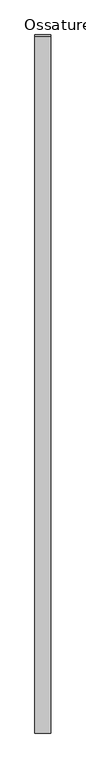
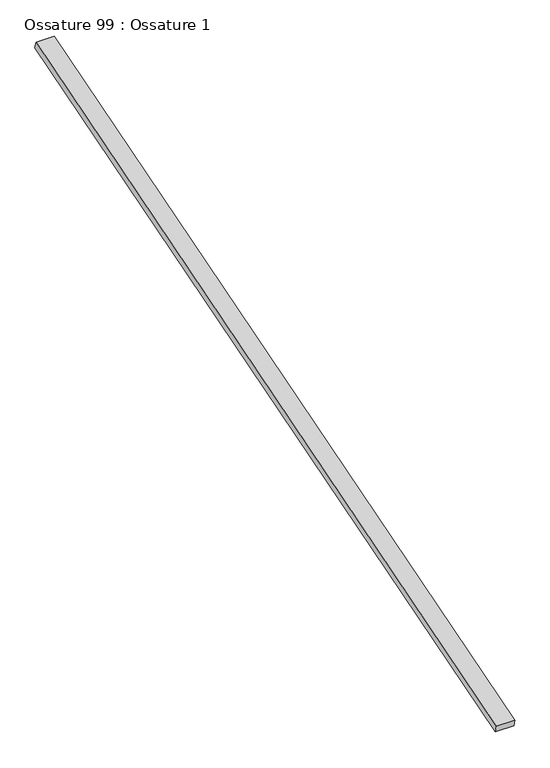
"""IFC4 building model written with IfcOpenShell, lengths in millimetres: beam geometry, Ossature 99 : Ossature 1."""

from ifc_helpers import new_model, si_unit, frame, origin, place, context, project, spatial, polyline, outline, extrude, source, transform, mapped, element, save


def ossature_99_ossature_1_f5a828e9(model_context):
    return source(origin(), model_context, "Body", "SweptSolid", [
        extrude(outline(polyline([(0.0, 0.0), (0.0, -4543.0299679), (-100.0, -4543.0299679), (-100.0, 0.0), (0.0, 0.0)])), frame((23857.8466393, -833.3913565, 8153.6336115), z_axis=(0.0, -0.28734788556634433, 0.9578262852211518), x_axis=(-1.0, 0.0, 0.0)), (0.0, 0.0, 1.0), 40.0),
    ])


if __name__ == "__main__":
    model = new_model("IFC4")
    model_context = context("Model", 3, world=origin())
    ifc_project = project(units=[si_unit("LENGTHUNIT", "METRE", prefix="MILLI")], contexts=[model_context])
    site = spatial("IfcSite", under=ifc_project)
    building = spatial("IfcBuilding", under=site)
    placement = place(None, origin())
    ossature_99_ossature_1_shape = ossature_99_ossature_1_f5a828e9(model_context)
    element("IfcBeam", 1, ObjectType="Ossature 99 : Ossature 1", at=placement, inside=building, context=model_context, shape_type="MappedRepresentation", body=[
        mapped(ossature_99_ossature_1_shape, transform((0.0, 0.0, 0.0), x_axis=(1.0, 0.0, 0.0), y_axis=(0.0, 1.0, 0.0), z_axis=(0.0, 0.0, 1.0))),
    ])
    save(model, "model.ifc")
